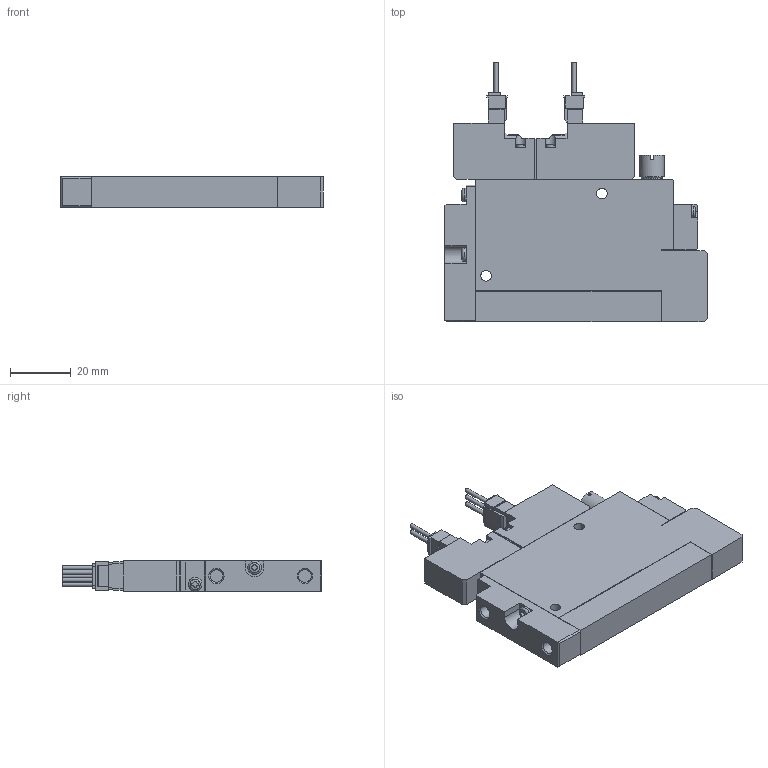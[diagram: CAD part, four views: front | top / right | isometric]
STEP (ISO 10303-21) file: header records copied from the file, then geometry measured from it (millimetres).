
FILE_DESCRIPTION(('STEP AP203'),'1');
FILE_NAME('5WC_3D.stp','2024-09-04T23:19:57',(' '),(' '),'Spatial InterOp 3D',' ',' ');
FILE_SCHEMA(('CONFIG_CONTROL_DESIGN'));
Length unit declared in the file: millimetre
Products named in the file (5): BSC1SXZZ※5WC; Solenoid valve W; Pressure Sensor ZZ; Unit-C; BaseSC10R
Assembly tree (4 placements, depth 2):
  BSC1SXZZ※5WC
    Solenoid valve W
    Pressure Sensor ZZ
    Unit-C
    BaseSC10R
Bounding box: 86 x 85.05 x 10 mm (x, y, z)
Volume: 48446.9 mm3; surface area: 17164 mm2
Topology: 4 solids, 4 shells, 358 faces, 957 edges, 632 vertices
Faces by surface type: plane 284, cylinder 61, cone 5, sphere 4, torus 4
Full cylindrical faces by diameter (mm): 1.4 x5, 3 x4, 3.5 x6, 4.134 x4, 4.5 x2, 5.5 x1, 7 x1, 8 x1
Entity records: 11176 total; most frequent: CARTESIAN_POINT 2081, ORIENTED_EDGE 1814, DIRECTION 1780, EDGE_CURVE 907, LINE 728, VECTOR 728, VERTEX_POINT 619, AXIS2_PLACEMENT_3D 526
